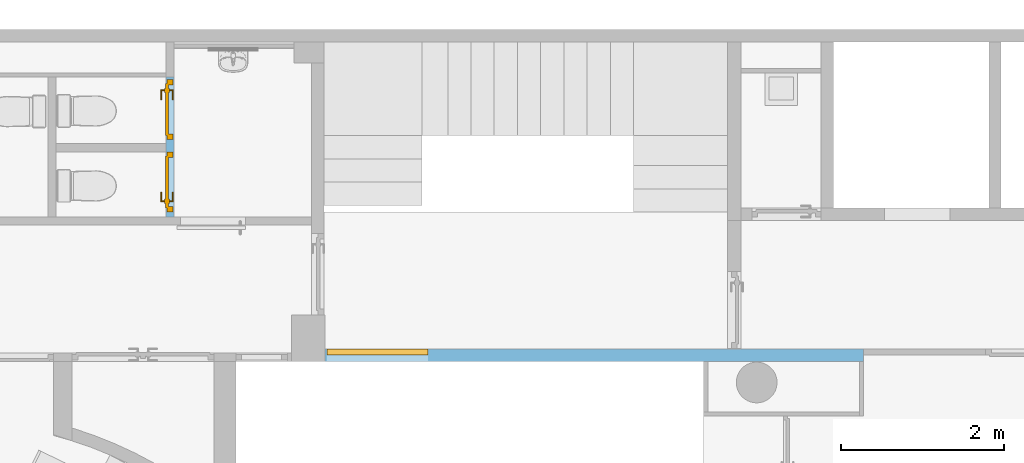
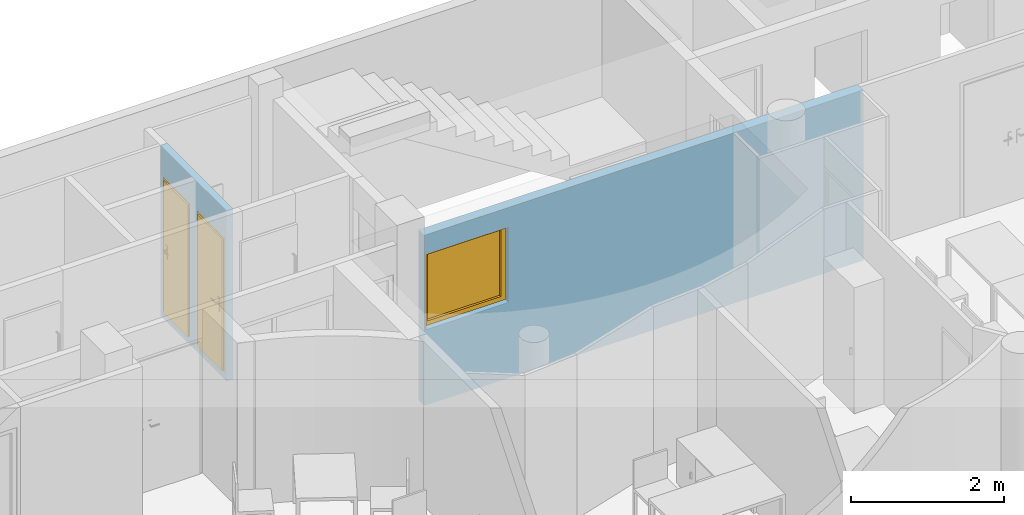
"""IFC4 building model written with IfcOpenShell, lengths in metres."""

from ifc_helpers import new_model, entity, si_unit, converted_unit, derived_unit, frame, frame_2d, origin, origin_with_axes, place, context, subcontext, project, spatial, polyline, rectangle, outline, extrude, closed_shell, open_shell, faceted_brep, surface_model, source, transform, mapped, material, layer, layer_set, layer_usage, element, fill, save


model = new_model("IFC4")

# Units and contexts
model_context = context("Model", 3, precision=1e-05, world=origin())
body_context = subcontext(model_context, "Body", "Model", "MODEL_VIEW")
ifc_project = project(units=[si_unit("LENGTHUNIT", "METRE"), si_unit("AREAUNIT", "SQUARE_METRE"), si_unit("VOLUMEUNIT", "CUBIC_METRE"), si_unit("MASSUNIT", "GRAM", prefix="KILO"), converted_unit("PLANEANGLEUNIT", "DEGREE", entity("IfcPlaneAngleMeasure", 0.0174532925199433), si_unit("PLANEANGLEUNIT", "RADIAN"), dimensions=[0, 0, 0, 0, 0, 0, 0]), derived_unit("THERMALTRANSMITTANCEUNIT", [(si_unit("POWERUNIT", "WATT"), 1), (si_unit("THERMODYNAMICTEMPERATUREUNIT", "KELVIN"), -1), (si_unit("LENGTHUNIT", "METRE"), -2)]), derived_unit("VOLUMETRICFLOWRATEUNIT", [(si_unit("LENGTHUNIT", "METRE"), 3), (converted_unit("TIMEUNIT", "hour", entity("IfcTimeMeasure", 3600.0), si_unit("TIMEUNIT", "SECOND"), dimensions=[0, 0, 1, 0, 0, 0, 0]), -1), (si_unit("LENGTHUNIT", "METRE"), -1)])], contexts=[model_context])

# Building, storeys
building_placement = place(None, origin())
building = spatial("IfcBuilding", under=ifc_project, at=building_placement, Name="HABITATGE PLURIFAMILIAR", CompositionType="ELEMENT")
storey_1_placement = place(building_placement, frame((0.0, 0.0, 6.25)))
storey_1 = spatial("IfcBuildingStorey", under=building, at=storey_1_placement, Name="PLANTA PRIMERA", CompositionType="ELEMENT", Elevation=6.25)
storey_2_placement = place(storey_1_placement, frame((0.0, 0.0, 3.35)))
storey_2 = spatial("IfcBuildingStorey", under=storey_1, at=storey_2_placement, Name="NOU", CompositionType="PARTIAL")

# Wall, opening, window
ifc_material_1 = material()
ifc_layer_1 = layer(ifc_material_1, 0.15)
ifc_layer_set_1 = layer_set([ifc_layer_1])
ifc_layer_usage_1 = layer_usage(ifc_layer_set_1, "AXIS2", "POSITIVE", 0.0)
wall_1_placement = place(storey_2_placement, frame((417.446984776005, 24.3094598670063, -3.45), z_axis=(0.0, 0.0, 1.0), x_axis=(-1.0, 0.0, 0.0)))
wall_1 = element("IfcWall", 1, at=wall_1_placement, inside=storey_2, material=ifc_layer_usage_1, Name="Envans P1", context=body_context, shape_type="SweptSolid", body=[
    extrude(rectangle(XDim=6.60651604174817, YDim=0.15, at=frame_2d((3.30325802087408, 0.075), x_axis=(1.0, 0.0))), origin_with_axes(), (0.0, 0.0, 1.0), 2.71),
])
opening_1_placement = place(wall_1_placement, frame((6.57999999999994, 0.15, 1.2), z_axis=(0.0, -1.0, 0.0), x_axis=(0.0, 0.0, 1.0)))
opening_1 = element("IfcOpeningElement", 2, at=opening_1_placement, cuts=wall_1, Name="Vano de Finestra P1", ObjectType="Opening", context=body_context, shape_type="SweptSolid", body=[
    extrude(outline(polyline([(1.2, 1.24), (1.2, 0.0), (0.0, 0.0), (0.0, 1.24), (1.2, 1.24)])), origin_with_axes(), (0.0, 0.0, 1.0), 0.15),
])
shared_shape_1 = source(origin_with_axes(), body_context, "Body", "SurfaceModel", [
    surface_model("IfcShellBasedSurfaceModel", [(1.24, 0.0, 1.2), (1.24, 0.0, 0.0), (1.17, 0.0, 0.0), (1.17, 0.0, 1.2), (1.24, 0.07, 0.0), (1.24, 0.07, 1.2), (1.17, 0.07, 1.2), (1.17, 0.07, 0.0)], [closed_shell([[[0, 1, 2, 3]], [[4, 5, 6, 7]], [[1, 0, 5, 4]], [[2, 1, 4, 7]], [[3, 2, 7, 6]], [[0, 3, 6, 5]]], orient=[[False], [False], [False], [False], [False], [False]])]),
    surface_model("IfcShellBasedSurfaceModel", [(0.07, 0.0, 1.2), (0.07, 0.0, 0.0), (0.0, 0.0, 0.0), (0.0, 0.0, 1.2), (0.07, 0.07, 0.0), (0.07, 0.07, 1.2), (0.0, 0.07, 1.2), (0.0, 0.07, 0.0)], [closed_shell([[[0, 1, 2, 3]], [[4, 5, 6, 7]], [[1, 0, 5, 4]], [[2, 1, 4, 7]], [[3, 2, 7, 6]], [[0, 3, 6, 5]]], orient=[[False], [False], [False], [False], [False], [False]])]),
    surface_model("IfcShellBasedSurfaceModel", [(1.17, 0.0, 0.07), (1.17, 0.0, 0.0), (0.07, 0.0, 0.0), (0.07, 0.0, 0.07), (1.17, 0.07, 0.0), (1.17, 0.07, 0.07), (0.07, 0.07, 0.07), (0.07, 0.07, 0.0)], [closed_shell([[[0, 1, 2, 3]], [[4, 5, 6, 7]], [[1, 0, 5, 4]], [[2, 1, 4, 7]], [[3, 2, 7, 6]], [[0, 3, 6, 5]]], orient=[[False], [False], [False], [False], [False], [False]])]),
    surface_model("IfcShellBasedSurfaceModel", [(1.17, 0.0, 1.2), (1.17, 0.0, 1.13), (0.07, 0.0, 1.13), (0.07, 0.0, 1.2), (1.17, 0.07, 1.13), (1.17, 0.07, 1.2), (0.07, 0.07, 1.2), (0.07, 0.07, 1.13)], [closed_shell([[[0, 1, 2, 3]], [[4, 5, 6, 7]], [[1, 0, 5, 4]], [[2, 1, 4, 7]], [[3, 2, 7, 6]], [[0, 3, 6, 5]]], orient=[[False], [False], [False], [False], [False], [False]])]),
    surface_model("IfcShellBasedSurfaceModel", [(1.17, 0.035, 0.07), (0.07, 0.035, 0.07), (0.07, 0.035, 1.13), (1.17, 0.035, 1.13)], [open_shell([[[0, 1, 2, 3]]], orient=[[False]])]),
])
window_placement = place(opening_1_placement, frame((0.0, 1.24, 0.15), z_axis=(1.0, 0.0, 0.0), x_axis=(0.0, -1.0, 0.0)))
window = element("IfcWindow", 3, at=window_placement, inside=storey_2, Name="Finestra P1", OverallHeight=1.2, OverallWidth=1.24, PartitioningType="USERDEFINED", PredefinedType="WINDOW", context=body_context, shape_type="MappedRepresentation", body=[
    mapped(shared_shape_1, transform((0.0, 0.0, 0.0), x_axis=(1.0, 0.0, 0.0), y_axis=(0.0, 1.0, 0.0), z_axis=(0.0, 0.0, 1.0), scale=1.0)),
])
fill(opening_1, window)

# Wall, openings, doors
ifc_material_2 = material()
ifc_layer_2 = layer(ifc_material_2, 0.1)
ifc_layer_set_2 = layer_set([ifc_layer_2])
ifc_layer_usage_2 = layer_usage(ifc_layer_set_2, "AXIS2", "POSITIVE", 0.0)
wall_2_placement = place(storey_2_placement, frame((408.9874736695, 25.9294598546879, -3.45), z_axis=(0.0, 0.0, 1.0), x_axis=(0.0, 1.0, 0.0)))
wall_2 = element("IfcWall", 4, at=wall_2_placement, inside=storey_2, material=ifc_layer_usage_2, Name="Envans P1", context=body_context, shape_type="SweptSolid", body=[
    extrude(rectangle(XDim=1.71999999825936, YDim=0.1, at=frame_2d((0.859999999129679, 0.05), x_axis=(1.0, 0.0))), origin_with_axes(), (0.0, 0.0, 1.0), 2.71),
])
opening_2_placement = place(wall_2_placement, frame((0.798973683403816, 0.1, 0.1), z_axis=(0.0, -1.0, 0.0), x_axis=(0.0, 0.0, 1.0)))
opening_2 = element("IfcOpeningElement", 5, at=opening_2_placement, cuts=wall_2, Name="Vano de puerta P1", ObjectType="Opening", context=body_context, shape_type="SweptSolid", body=[
    extrude(outline(polyline([(2.15, 0.74), (2.15, 0.0), (0.0, 0.0), (0.0, 0.74), (2.15, 0.74)])), origin_with_axes(), (0.0, 0.0, 1.0), 0.1),
])
opening_3_placement = place(wall_2_placement, frame((1.68897368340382, 0.1, 0.1), z_axis=(0.0, -1.0, 0.0), x_axis=(0.0, 0.0, 1.0)))
opening_3 = element("IfcOpeningElement", 6, at=opening_3_placement, cuts=wall_2, Name="Vano de puerta P1", ObjectType="Opening", context=body_context, shape_type="SweptSolid", body=[
    extrude(outline(polyline([(2.15, 0.74), (2.15, 0.0), (0.0, 0.0), (0.0, 0.74), (2.15, 0.74)])), origin_with_axes(), (0.0, 0.0, 1.0), 0.1),
])
shared_shape_2 = source(origin_with_axes(), body_context, "Body", "Brep", [
    faceted_brep([(0.0, 0.0700000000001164, 2.15), (0.0, 0.0700000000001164, 0.0), (0.0699999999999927, 0.0700000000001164, 0.0), (0.0699999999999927, 0.0700000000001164, 2.15), (0.0, 0.0, 0.0), (0.0, 0.0, 2.15), (0.0699999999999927, 0.0, 2.15), (0.0699999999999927, 0.0, 0.0)], [[[0, 1, 2, 3]], [[4, 5, 6, 7]], [[1, 0, 5, 4]], [[2, 1, 4, 7]], [[3, 2, 7, 6]], [[0, 3, 6, 5]]], orient=[[False], [False], [False], [False], [False], [False]]),
    faceted_brep([(0.669999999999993, 0.0700000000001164, 2.15), (0.669999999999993, 0.0700000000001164, 0.0), (0.739999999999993, 0.0700000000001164, 0.0), (0.739999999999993, 0.0700000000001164, 2.15), (0.669999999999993, 0.0, 0.0), (0.669999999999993, 0.0, 2.15), (0.739999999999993, 0.0, 2.15), (0.739999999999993, 0.0, 0.0)], [[[0, 1, 2, 3]], [[4, 5, 6, 7]], [[1, 0, 5, 4]], [[2, 1, 4, 7]], [[3, 2, 7, 6]], [[0, 3, 6, 5]]], orient=[[False], [False], [False], [False], [False], [False]]),
    faceted_brep([(0.0699999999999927, 0.0700000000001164, 2.15), (0.0699999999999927, 0.0700000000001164, 2.08), (0.669999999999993, 0.0700000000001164, 2.08), (0.669999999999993, 0.0700000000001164, 2.15), (0.0699999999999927, 0.0, 2.08), (0.0699999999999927, 0.0, 2.15), (0.669999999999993, 0.0, 2.15), (0.669999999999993, 0.0, 2.08)], [[[0, 1, 2, 3]], [[4, 5, 6, 7]], [[1, 0, 5, 4]], [[2, 1, 4, 7]], [[3, 2, 7, 6]], [[0, 3, 6, 5]]], orient=[[False], [False], [False], [False], [False], [False]]),
    faceted_brep([(0.0499999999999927, 0.0900000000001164, 2.1), (0.0499999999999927, 0.0900000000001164, 0.0), (0.689999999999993, 0.0900000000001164, 0.0), (0.689999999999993, 0.0900000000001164, 2.1), (0.0499999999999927, 0.0500000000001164, 0.0), (0.0499999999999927, 0.0500000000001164, 2.1), (0.689999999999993, 0.0500000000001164, 2.1), (0.689999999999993, 0.0500000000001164, 0.0)], [[[0, 1, 2, 3]], [[4, 5, 6, 7]], [[1, 0, 5, 4]], [[2, 1, 4, 7]], [[3, 2, 7, 6]], [[0, 3, 6, 5]]], orient=[[False], [False], [False], [False], [False], [False]]),
    faceted_brep([(0.109999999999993, 0.0500000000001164, 1.125), (0.109999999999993, 0.0500000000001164, 0.91), (0.159999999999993, 0.0500000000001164, 0.91), (0.159999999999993, 0.0500000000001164, 1.125), (0.109999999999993, 0.0400000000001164, 0.91), (0.109999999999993, 0.0400000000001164, 1.125), (0.159999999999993, 0.0400000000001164, 1.125), (0.159999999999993, 0.0400000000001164, 0.91)], [[[0, 1, 2, 3]], [[4, 5, 6, 7]], [[1, 0, 5, 4]], [[2, 1, 4, 7]], [[3, 2, 7, 6]], [[0, 3, 6, 5]]], orient=[[False], [False], [False], [False], [False], [False]]),
    faceted_brep([(0.134999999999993, 0.0400000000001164, 1.06), (0.129999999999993, 0.0400000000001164, 1.05866025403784), (0.126339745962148, 0.0400000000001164, 1.055), (0.124999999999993, 0.0400000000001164, 1.05), (0.126339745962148, 0.0400000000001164, 1.045), (0.129999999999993, 0.0400000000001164, 1.04133974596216), (0.134999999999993, 0.0400000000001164, 1.04), (0.139999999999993, 0.0400000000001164, 1.04133974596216), (0.143660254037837, 0.0400000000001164, 1.045), (0.144999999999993, 0.0400000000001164, 1.05), (0.143660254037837, 0.0400000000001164, 1.055), (0.139999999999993, 0.0400000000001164, 1.05866025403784), (0.134999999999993, 0.0, 1.06), (0.129999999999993, -0.00499999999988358, 1.05866025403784), (0.126339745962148, -0.00866025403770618, 1.055), (0.124999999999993, -0.00999999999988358, 1.05), (0.126339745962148, -0.00866025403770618, 1.045), (0.129999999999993, -0.00499999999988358, 1.04133974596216), (0.134999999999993, 0.0, 1.04), (0.139999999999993, 0.00500000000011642, 1.04133974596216), (0.143660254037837, 0.00866025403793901, 1.045), (0.144999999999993, 0.0100000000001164, 1.05), (0.143660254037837, 0.00866025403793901, 1.055), (0.139999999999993, 0.00500000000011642, 1.05866025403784), (0.249999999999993, 0.0, 1.06), (0.249999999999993, 0.00500000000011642, 1.05866025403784), (0.249999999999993, 0.00866025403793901, 1.055), (0.249999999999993, 0.0100000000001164, 1.05), (0.249999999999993, 0.00866025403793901, 1.045), (0.249999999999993, 0.00500000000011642, 1.04133974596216), (0.249999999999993, 0.0, 1.04), (0.249999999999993, -0.00499999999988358, 1.04133974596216), (0.249999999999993, -0.00866025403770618, 1.045), (0.249999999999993, -0.00999999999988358, 1.05), (0.249999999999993, -0.00866025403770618, 1.055), (0.249999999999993, -0.00499999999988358, 1.05866025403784)], [[[0, 1, 2, 3, 4, 5, 6, 7, 8, 9, 10, 11]], [[0, 12, 13, 1]], [[1, 13, 14, 2]], [[2, 14, 15, 3]], [[3, 15, 16, 4]], [[4, 16, 17, 5]], [[5, 17, 18, 6]], [[6, 18, 19, 7]], [[7, 19, 20, 8]], [[8, 20, 21, 9]], [[9, 21, 22, 10]], [[10, 22, 23, 11]], [[11, 23, 12, 0]], [[24, 25, 26, 27, 28, 29, 30, 31, 32, 33, 34, 35]], [[12, 24, 35, 13]], [[13, 35, 34, 14]], [[14, 34, 33, 15]], [[15, 33, 32, 16]], [[16, 32, 31, 17]], [[17, 31, 30, 18]], [[18, 30, 29, 19]], [[19, 29, 28, 20]], [[20, 28, 27, 21]], [[21, 27, 26, 22]], [[22, 26, 25, 23]], [[23, 25, 24, 12]]], orient=[[False], [False], [False], [False], [False], [False], [False], [False], [False], [False], [False], [False], [False], [False], [False], [False], [False], [False], [False], [False], [False], [False], [False], [False], [False], [False]]),
    faceted_brep([(0.109999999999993, 0.0900000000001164, 1.125), (0.159999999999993, 0.0900000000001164, 1.125), (0.159999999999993, 0.0900000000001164, 0.91), (0.109999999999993, 0.0900000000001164, 0.91), (0.109999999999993, 0.100000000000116, 0.91), (0.159999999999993, 0.100000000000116, 0.91), (0.159999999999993, 0.100000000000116, 1.125), (0.109999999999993, 0.100000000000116, 1.125)], [[[0, 1, 2, 3]], [[4, 5, 6, 7]], [[3, 4, 7, 0]], [[2, 5, 4, 3]], [[1, 6, 5, 2]], [[0, 7, 6, 1]]], orient=[[False], [False], [False], [False], [False], [False]]),
    faceted_brep([(0.134999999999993, 0.100000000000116, 1.06), (0.139999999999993, 0.100000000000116, 1.05866025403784), (0.143660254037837, 0.100000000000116, 1.055), (0.144999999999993, 0.100000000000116, 1.05), (0.143660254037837, 0.100000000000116, 1.045), (0.139999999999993, 0.100000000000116, 1.04133974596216), (0.134999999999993, 0.100000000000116, 1.04), (0.129999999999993, 0.100000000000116, 1.04133974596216), (0.126339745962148, 0.100000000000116, 1.045), (0.124999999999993, 0.100000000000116, 1.05), (0.126339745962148, 0.100000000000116, 1.055), (0.129999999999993, 0.100000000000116, 1.05866025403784), (0.129999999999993, 0.145000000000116, 1.05866025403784), (0.134999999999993, 0.140000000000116, 1.06), (0.126339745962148, 0.148660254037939, 1.055), (0.124999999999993, 0.150000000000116, 1.05), (0.126339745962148, 0.148660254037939, 1.045), (0.129999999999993, 0.145000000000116, 1.04133974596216), (0.134999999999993, 0.140000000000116, 1.04), (0.139999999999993, 0.135000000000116, 1.04133974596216), (0.143660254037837, 0.131339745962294, 1.045), (0.144999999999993, 0.130000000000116, 1.05), (0.143660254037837, 0.131339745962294, 1.055), (0.139999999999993, 0.135000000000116, 1.05866025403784), (0.249999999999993, 0.140000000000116, 1.06), (0.249999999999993, 0.145000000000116, 1.05866025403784), (0.249999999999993, 0.148660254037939, 1.055), (0.249999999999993, 0.150000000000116, 1.05), (0.249999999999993, 0.148660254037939, 1.045), (0.249999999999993, 0.145000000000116, 1.04133974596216), (0.249999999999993, 0.140000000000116, 1.04), (0.249999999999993, 0.135000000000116, 1.04133974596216), (0.249999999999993, 0.131339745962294, 1.045), (0.249999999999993, 0.130000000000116, 1.05), (0.249999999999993, 0.131339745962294, 1.055), (0.249999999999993, 0.135000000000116, 1.05866025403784)], [[[0, 1, 2, 3, 4, 5, 6, 7, 8, 9, 10, 11]], [[0, 11, 12, 13]], [[11, 10, 14, 12]], [[10, 9, 15, 14]], [[9, 8, 16, 15]], [[8, 7, 17, 16]], [[7, 6, 18, 17]], [[6, 5, 19, 18]], [[5, 4, 20, 19]], [[4, 3, 21, 20]], [[3, 2, 22, 21]], [[2, 1, 23, 22]], [[1, 0, 13, 23]], [[24, 25, 26, 27, 28, 29, 30, 31, 32, 33, 34, 35]], [[13, 12, 25, 24]], [[12, 14, 26, 25]], [[14, 15, 27, 26]], [[15, 16, 28, 27]], [[16, 17, 29, 28]], [[17, 18, 30, 29]], [[18, 19, 31, 30]], [[19, 20, 32, 31]], [[20, 21, 33, 32]], [[21, 22, 34, 33]], [[22, 23, 35, 34]], [[23, 13, 24, 35]]], orient=[[False], [False], [False], [False], [False], [False], [False], [False], [False], [False], [False], [False], [False], [False], [False], [False], [False], [False], [False], [False], [False], [False], [False], [False], [False], [False]]),
])
door_1_placement = place(opening_2_placement, frame((0.0, 0.74, 0.085), z_axis=(1.0, 0.0, 0.0), x_axis=(0.0, -1.0, 0.0)))
door_1 = element("IfcDoor", 7, at=door_1_placement, inside=storey_2, Name="Porta P1", OperationType="USERDEFINED", OverallHeight=2.15, OverallWidth=0.74, PredefinedType="DOOR", context=body_context, shape_type="MappedRepresentation", body=[
    mapped(shared_shape_2, transform((0.0, 0.0, 0.0), x_axis=(1.0, 0.0, 0.0), y_axis=(0.0, 1.0, 0.0), z_axis=(0.0, 0.0, 1.0), scale=1.0)),
])
fill(opening_2, door_1)
shared_shape_3 = source(origin_with_axes(), body_context, "Body", "Brep", [
    faceted_brep([(0.739999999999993, 0.0700000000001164, 2.15), (0.669999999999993, 0.0700000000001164, 2.15), (0.669999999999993, 0.0700000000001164, 0.0), (0.739999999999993, 0.0700000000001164, 0.0), (0.739999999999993, 0.0, 0.0), (0.669999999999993, 0.0, 0.0), (0.669999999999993, 0.0, 2.15), (0.739999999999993, 0.0, 2.15)], [[[0, 1, 2, 3]], [[4, 5, 6, 7]], [[3, 4, 7, 0]], [[2, 5, 4, 3]], [[1, 6, 5, 2]], [[0, 7, 6, 1]]], orient=[[False], [False], [False], [False], [False], [False]]),
    faceted_brep([(0.0699999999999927, 0.0700000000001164, 2.15), (0.0, 0.0700000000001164, 2.15), (0.0, 0.0700000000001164, 0.0), (0.0699999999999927, 0.0700000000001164, 0.0), (0.0699999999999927, 0.0, 0.0), (0.0, 0.0, 0.0), (0.0, 0.0, 2.15), (0.0699999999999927, 0.0, 2.15)], [[[0, 1, 2, 3]], [[4, 5, 6, 7]], [[3, 4, 7, 0]], [[2, 5, 4, 3]], [[1, 6, 5, 2]], [[0, 7, 6, 1]]], orient=[[False], [False], [False], [False], [False], [False]]),
    faceted_brep([(0.669999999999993, 0.0700000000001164, 2.15), (0.0699999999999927, 0.0700000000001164, 2.15), (0.0699999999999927, 0.0700000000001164, 2.08), (0.669999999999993, 0.0700000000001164, 2.08), (0.669999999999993, 0.0, 2.08), (0.0699999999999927, 0.0, 2.08), (0.0699999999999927, 0.0, 2.15), (0.669999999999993, 0.0, 2.15)], [[[0, 1, 2, 3]], [[4, 5, 6, 7]], [[3, 4, 7, 0]], [[2, 5, 4, 3]], [[1, 6, 5, 2]], [[0, 7, 6, 1]]], orient=[[False], [False], [False], [False], [False], [False]]),
    faceted_brep([(0.689999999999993, 0.0900000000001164, 2.1), (0.0499999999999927, 0.0900000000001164, 2.1), (0.0499999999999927, 0.0900000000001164, 0.0), (0.689999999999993, 0.0900000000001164, 0.0), (0.689999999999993, 0.0500000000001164, 0.0), (0.0499999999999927, 0.0500000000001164, 0.0), (0.0499999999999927, 0.0500000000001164, 2.1), (0.689999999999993, 0.0500000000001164, 2.1)], [[[0, 1, 2, 3]], [[4, 5, 6, 7]], [[3, 4, 7, 0]], [[2, 5, 4, 3]], [[1, 6, 5, 2]], [[0, 7, 6, 1]]], orient=[[False], [False], [False], [False], [False], [False]]),
    faceted_brep([(0.629999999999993, 0.0500000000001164, 1.125), (0.579999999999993, 0.0500000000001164, 1.125), (0.579999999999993, 0.0500000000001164, 0.91), (0.629999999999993, 0.0500000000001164, 0.91), (0.629999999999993, 0.0400000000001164, 0.91), (0.579999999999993, 0.0400000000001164, 0.91), (0.579999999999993, 0.0400000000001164, 1.125), (0.629999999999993, 0.0400000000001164, 1.125)], [[[0, 1, 2, 3]], [[4, 5, 6, 7]], [[3, 4, 7, 0]], [[2, 5, 4, 3]], [[1, 6, 5, 2]], [[0, 7, 6, 1]]], orient=[[False], [False], [False], [False], [False], [False]]),
    faceted_brep([(0.604999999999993, 0.0400000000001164, 1.06), (0.599999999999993, 0.0400000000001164, 1.05866025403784), (0.596339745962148, 0.0400000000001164, 1.055), (0.594999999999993, 0.0400000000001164, 1.05), (0.596339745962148, 0.0400000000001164, 1.045), (0.599999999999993, 0.0400000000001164, 1.04133974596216), (0.604999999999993, 0.0400000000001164, 1.04), (0.609999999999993, 0.0400000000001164, 1.04133974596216), (0.613660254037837, 0.0400000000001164, 1.045), (0.614999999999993, 0.0400000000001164, 1.05), (0.613660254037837, 0.0400000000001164, 1.055), (0.609999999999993, 0.0400000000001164, 1.05866025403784), (0.609999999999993, -0.00499999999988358, 1.05866025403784), (0.604999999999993, 0.0, 1.06), (0.613660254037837, -0.00866025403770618, 1.055), (0.614999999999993, -0.00999999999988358, 1.05), (0.613660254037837, -0.00866025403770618, 1.045), (0.609999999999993, -0.00499999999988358, 1.04133974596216), (0.604999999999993, 0.0, 1.04), (0.599999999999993, 0.00500000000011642, 1.04133974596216), (0.596339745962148, 0.00866025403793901, 1.045), (0.594999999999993, 0.0100000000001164, 1.05), (0.596339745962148, 0.00866025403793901, 1.055), (0.599999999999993, 0.00500000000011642, 1.05866025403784), (0.489999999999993, 0.0, 1.06), (0.489999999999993, -0.00499999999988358, 1.05866025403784), (0.489999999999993, -0.00866025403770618, 1.055), (0.489999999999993, -0.00999999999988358, 1.05), (0.489999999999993, -0.00866025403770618, 1.045), (0.489999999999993, -0.00499999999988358, 1.04133974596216), (0.489999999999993, 0.0, 1.04), (0.489999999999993, 0.00500000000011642, 1.04133974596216), (0.489999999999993, 0.00866025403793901, 1.045), (0.489999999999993, 0.0100000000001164, 1.05), (0.489999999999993, 0.00866025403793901, 1.055), (0.489999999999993, 0.00500000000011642, 1.05866025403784)], [[[0, 1, 2, 3, 4, 5, 6, 7, 8, 9, 10, 11]], [[0, 11, 12, 13]], [[11, 10, 14, 12]], [[10, 9, 15, 14]], [[9, 8, 16, 15]], [[8, 7, 17, 16]], [[7, 6, 18, 17]], [[6, 5, 19, 18]], [[5, 4, 20, 19]], [[4, 3, 21, 20]], [[3, 2, 22, 21]], [[2, 1, 23, 22]], [[1, 0, 13, 23]], [[24, 25, 26, 27, 28, 29, 30, 31, 32, 33, 34, 35]], [[13, 12, 25, 24]], [[12, 14, 26, 25]], [[14, 15, 27, 26]], [[15, 16, 28, 27]], [[16, 17, 29, 28]], [[17, 18, 30, 29]], [[18, 19, 31, 30]], [[19, 20, 32, 31]], [[20, 21, 33, 32]], [[21, 22, 34, 33]], [[22, 23, 35, 34]], [[23, 13, 24, 35]]], orient=[[False], [False], [False], [False], [False], [False], [False], [False], [False], [False], [False], [False], [False], [False], [False], [False], [False], [False], [False], [False], [False], [False], [False], [False], [False], [False]]),
    faceted_brep([(0.629999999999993, 0.0900000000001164, 1.125), (0.629999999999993, 0.0900000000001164, 0.91), (0.579999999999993, 0.0900000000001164, 0.91), (0.579999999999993, 0.0900000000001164, 1.125), (0.629999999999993, 0.100000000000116, 0.91), (0.629999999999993, 0.100000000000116, 1.125), (0.579999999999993, 0.100000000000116, 1.125), (0.579999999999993, 0.100000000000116, 0.91)], [[[0, 1, 2, 3]], [[4, 5, 6, 7]], [[1, 0, 5, 4]], [[2, 1, 4, 7]], [[3, 2, 7, 6]], [[0, 3, 6, 5]]], orient=[[False], [False], [False], [False], [False], [False]]),
    faceted_brep([(0.604999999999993, 0.100000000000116, 1.06), (0.609999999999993, 0.100000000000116, 1.05866025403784), (0.613660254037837, 0.100000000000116, 1.055), (0.614999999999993, 0.100000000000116, 1.05), (0.613660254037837, 0.100000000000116, 1.045), (0.609999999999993, 0.100000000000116, 1.04133974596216), (0.604999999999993, 0.100000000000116, 1.04), (0.599999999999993, 0.100000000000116, 1.04133974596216), (0.596339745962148, 0.100000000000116, 1.045), (0.594999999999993, 0.100000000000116, 1.05), (0.596339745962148, 0.100000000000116, 1.055), (0.599999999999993, 0.100000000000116, 1.05866025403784), (0.604999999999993, 0.140000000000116, 1.06), (0.609999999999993, 0.145000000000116, 1.05866025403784), (0.613660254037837, 0.148660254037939, 1.055), (0.614999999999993, 0.150000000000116, 1.05), (0.613660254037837, 0.148660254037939, 1.045), (0.609999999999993, 0.145000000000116, 1.04133974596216), (0.604999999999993, 0.140000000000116, 1.04), (0.599999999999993, 0.135000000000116, 1.04133974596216), (0.596339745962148, 0.131339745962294, 1.045), (0.594999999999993, 0.130000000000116, 1.05), (0.596339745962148, 0.131339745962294, 1.055), (0.599999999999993, 0.135000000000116, 1.05866025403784), (0.489999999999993, 0.140000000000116, 1.06), (0.489999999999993, 0.135000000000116, 1.05866025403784), (0.489999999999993, 0.131339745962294, 1.055), (0.489999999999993, 0.130000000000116, 1.05), (0.489999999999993, 0.131339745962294, 1.045), (0.489999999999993, 0.135000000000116, 1.04133974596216), (0.489999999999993, 0.140000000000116, 1.04), (0.489999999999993, 0.145000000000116, 1.04133974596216), (0.489999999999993, 0.148660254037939, 1.045), (0.489999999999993, 0.150000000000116, 1.05), (0.489999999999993, 0.148660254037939, 1.055), (0.489999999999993, 0.145000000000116, 1.05866025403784)], [[[0, 1, 2, 3, 4, 5, 6, 7, 8, 9, 10, 11]], [[0, 12, 13, 1]], [[1, 13, 14, 2]], [[2, 14, 15, 3]], [[3, 15, 16, 4]], [[4, 16, 17, 5]], [[5, 17, 18, 6]], [[6, 18, 19, 7]], [[7, 19, 20, 8]], [[8, 20, 21, 9]], [[9, 21, 22, 10]], [[10, 22, 23, 11]], [[11, 23, 12, 0]], [[24, 25, 26, 27, 28, 29, 30, 31, 32, 33, 34, 35]], [[12, 24, 35, 13]], [[13, 35, 34, 14]], [[14, 34, 33, 15]], [[15, 33, 32, 16]], [[16, 32, 31, 17]], [[17, 31, 30, 18]], [[18, 30, 29, 19]], [[19, 29, 28, 20]], [[20, 28, 27, 21]], [[21, 27, 26, 22]], [[22, 26, 25, 23]], [[23, 25, 24, 12]]], orient=[[False], [False], [False], [False], [False], [False], [False], [False], [False], [False], [False], [False], [False], [False], [False], [False], [False], [False], [False], [False], [False], [False], [False], [False], [False], [False]]),
])
door_2_placement = place(opening_3_placement, frame((0.0, 0.74, 0.085), z_axis=(1.0, 0.0, 0.0), x_axis=(0.0, -1.0, 0.0)))
door_2 = element("IfcDoor", 8, at=door_2_placement, inside=storey_2, Name="Porta P1", OperationType="USERDEFINED", OverallHeight=2.15, OverallWidth=0.74, PredefinedType="DOOR", context=body_context, shape_type="MappedRepresentation", body=[
    mapped(shared_shape_3, transform((0.0, 0.0, 0.0), x_axis=(1.0, 0.0, 0.0), y_axis=(0.0, 1.0, 0.0), z_axis=(0.0, 0.0, 1.0), scale=1.0)),
])
fill(opening_3, door_2)

save(model, "model.ifc")
